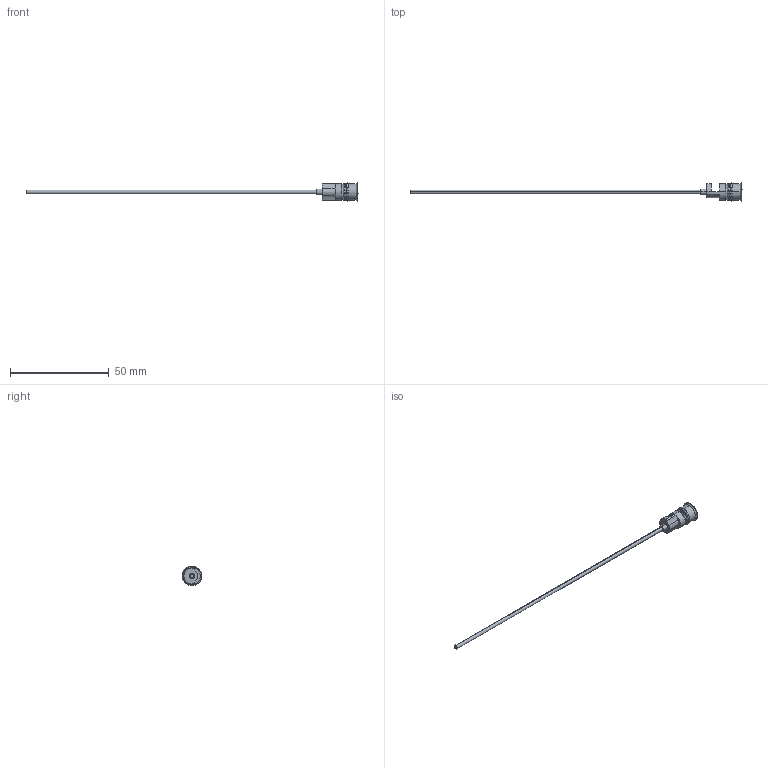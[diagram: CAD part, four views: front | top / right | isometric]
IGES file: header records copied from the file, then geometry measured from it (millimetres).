
Start section: START RECORD GO HERE.
Global section: file name: RF-8x150_2.igs; native system: DASSAULT SYSTEMES CATIA V5 R20 - www.3ds.com; preprocessor: CATIA Version 5 Release 20 ; author: Utente; organization: NB04-ASUS; date: 20210223.202807; units: millimetre
Bounding box: 168 x 9.8 x 9.8 mm (x, y, z)
Surface area: 2537.2 mm2 (no closed solid volume)
Topology: 0 solids, 0 shells, 68 faces, 384 edges, 384 vertices
Faces by surface type: revolution 42, plane 26
